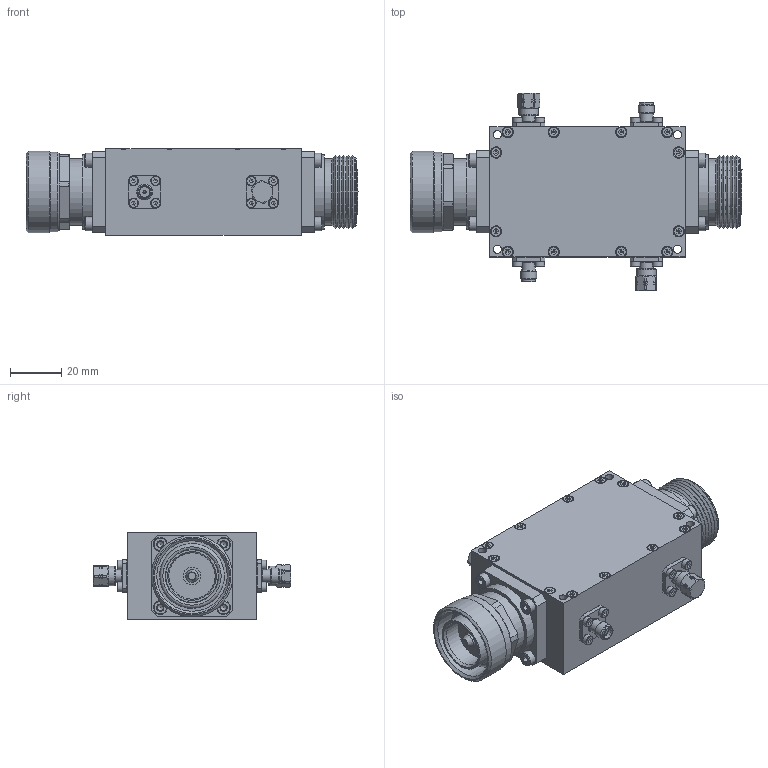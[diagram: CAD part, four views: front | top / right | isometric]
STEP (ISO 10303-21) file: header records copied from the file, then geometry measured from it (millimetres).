
FILE_DESCRIPTION(/* description */ ('Unknown'),/* implementation_level */ '2;1');
FILE_NAME(/* name */ 'DETI_MICROWAVE_HIGH_POWER_DUAL_DIRECTIONAL_COUPLER_800045_STEP',/* time_stamp */ '2021-06-11T09:20:23+02:00',/* author */ ('ALG'),/* organization */ ('DETI'),/* preprocessor_version */ 'ST-DEVELOPER v16.7',/* originating_system */ 'Solid Edge',/* authorisation */ 'Unknown');
FILE_SCHEMA (('AUTOMOTIVE_DESIGN {1 0 10303 214 3 1 1}'));
Length unit declared in the file: millimetre
Products named in the file (1): 800045 0B 1601A
Bounding box: 129.75 x 77.05 x 34 mm (x, y, z)
Volume: 161237.9 mm3; surface area: 39647.3 mm2
Topology: 1 solids, 67 shells, 1461 faces, 3796 edges, 2509 vertices
Faces by surface type: plane 794, cylinder 362, cone 245, torus 60
Full cylindrical faces by diameter (mm): 0.93 x2, 0.98 x4, 1.26 x4, 1.3 x4, 1.567 x28, 1.6 x4, 2 x28, 2.2 x12, 2.459 x8, 2.6 x16, 3 x10, 3.2 x4, 3.5 x8, 3.8 x28, 4.08 x4, 4.1 x4, 4.12 x2, 4.14 x4, 4.56 x2, 4.6 x1, 4.64 x4, 5 x1, 5.35 x8, 5.5 x8, 6.225 x4, 6.425 x2, 6.6 x4, 6.7 x1, 7 x1, 7.7 x2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
Entity records: 50950 total; most frequent: CARTESIAN_POINT 8356, DIRECTION 6534, ORIENTED_EDGE 6092, EDGE_CURVE 3046, AXIS2_PLACEMENT_3D 2382, VERTEX_POINT 2262, FACE_BOUND 2098, EDGE_LOOP 2034
